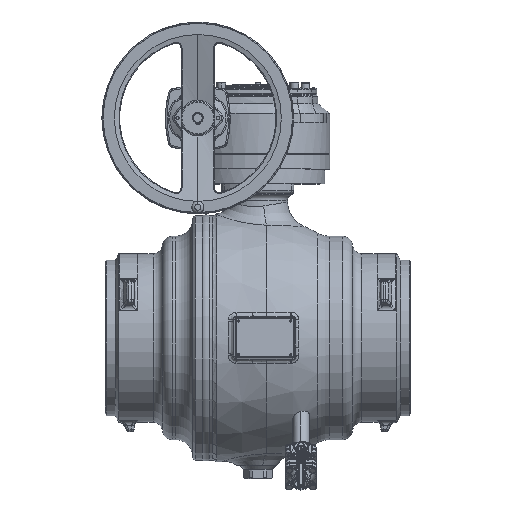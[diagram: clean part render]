
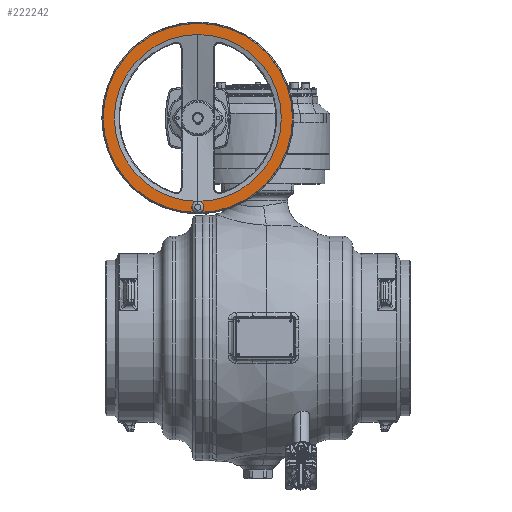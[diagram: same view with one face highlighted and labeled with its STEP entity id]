
A CAD part, top view. The second image highlights one B-rep face of the part: STEP entity #222242.
In plain terms, the highlighted planar face has unit normal (0, 0, 1).
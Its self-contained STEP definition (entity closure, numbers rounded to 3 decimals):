
#196062=CARTESIAN_POINT('',(-125.,106.,324.2));
#196063=DIRECTION('',(0.,0.,1.));
#196064=DIRECTION('',(0.,1.,0.));
#196065=AXIS2_PLACEMENT_3D('',#196062,#196063,#196064);
#196067=CARTESIAN_POINT('',(-125.,106.,324.2));
#196068=DIRECTION('',(0.,0.,1.));
#196069=DIRECTION('',(0.,-1.,0.));
#196070=AXIS2_PLACEMENT_3D('',#196067,#196068,#196069);
#196072=CARTESIAN_POINT('',(-125.,106.,324.2));
#196073=DIRECTION('',(0.,0.,-1.));
#196074=DIRECTION('',(0.,1.,0.));
#196075=AXIS2_PLACEMENT_3D('',#196072,#196073,#196074);
#196077=CARTESIAN_POINT('',(-125.,106.,324.2));
#196078=DIRECTION('',(0.,0.,1.));
#196079=DIRECTION('',(0.,1.,0.));
#196080=AXIS2_PLACEMENT_3D('',#196077,#196078,#196079);
#196082=CARTESIAN_POINT('',(-125.,-80.,324.2));
#196083=DIRECTION('',(0.,0.,1.));
#196084=DIRECTION('',(0.,-1.,0.));
#196085=AXIS2_PLACEMENT_3D('',#196082,#196083,#196084);
#196087=CARTESIAN_POINT('',(-125.,-80.,324.2));
#196088=DIRECTION('',(0.,0.,1.));
#196089=DIRECTION('',(0.,1.,0.));
#196090=AXIS2_PLACEMENT_3D('',#196087,#196088,#196089);
#206508=CARTESIAN_POINT('',(-125.,280.,324.2));
#206509=CARTESIAN_POINT('',(-125.,-68.,324.2));
#206510=VERTEX_POINT('',#206508);
#206511=VERTEX_POINT('',#206509);
#206522=CARTESIAN_POINT('',(-125.,-91.,324.2));
#206523=CARTESIAN_POINT('',(-125.,-69.,324.2));
#206524=VERTEX_POINT('',#206522);
#206525=VERTEX_POINT('',#206523);
#206711=CARTESIAN_POINT('',(-125.,303.293,324.2));
#206712=CARTESIAN_POINT('',(-125.,-91.293,324.2));
#206713=VERTEX_POINT('',#206711);
#206714=VERTEX_POINT('',#206712);
#222221=CARTESIAN_POINT('',(-125.,106.,324.2));
#222222=DIRECTION('',(0.,0.,1.));
#222223=DIRECTION('',(0.,-1.,0.));
#222224=AXIS2_PLACEMENT_3D('',#222221,#222222,#222223);
#222225=PLANE('',#222224);
#222227=ORIENTED_EDGE('',*,*,#222226,.F.);
#222229=ORIENTED_EDGE('',*,*,#222228,.F.);
#222230=EDGE_LOOP('',(#222227,#222229));
#222231=FACE_OUTER_BOUND('',#222230,.F.);
#222232=ORIENTED_EDGE('',*,*,#221455,.F.);
#222233=ORIENTED_EDGE('',*,*,#221505,.T.);
#222234=EDGE_LOOP('',(#222232,#222233));
#222235=FACE_BOUND('',#222234,.F.);
#222237=ORIENTED_EDGE('',*,*,#222236,.T.);
#222239=ORIENTED_EDGE('',*,*,#222238,.T.);
#222240=EDGE_LOOP('',(#222237,#222239));
#222241=FACE_BOUND('',#222240,.F.);
#222242=ADVANCED_FACE('',(#222231,#222235,#222241),#222225,.T.);
#196066=CIRCLE('',#196065,197.293);
#196071=CIRCLE('',#196070,197.293);
#196076=CIRCLE('',#196075,174.);
#196081=CIRCLE('',#196080,174.);
#196086=CIRCLE('',#196085,11.);
#196091=CIRCLE('',#196090,11.);
#221455=EDGE_CURVE('',#206510,#206511,#196076,.T.);
#221505=EDGE_CURVE('',#206510,#206511,#196081,.T.);
#222226=EDGE_CURVE('',#206713,#206714,#196066,.T.);
#222228=EDGE_CURVE('',#206714,#206713,#196071,.T.);
#222236=EDGE_CURVE('',#206524,#206525,#196086,.T.);
#222238=EDGE_CURVE('',#206525,#206524,#196091,.T.);
